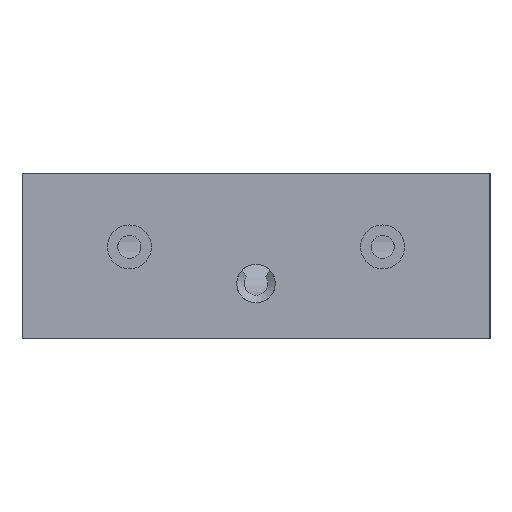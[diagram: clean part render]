
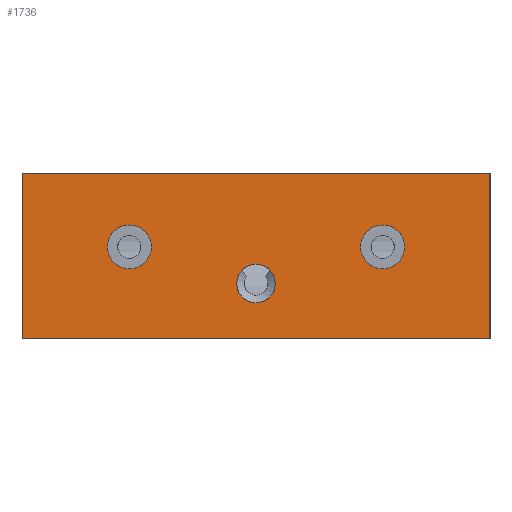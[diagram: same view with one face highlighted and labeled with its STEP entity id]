
A CAD part, left-side view. The second image highlights one B-rep face of the part: STEP entity #1736.
In plain terms, the highlighted planar face has unit normal (-1, 0, 0).
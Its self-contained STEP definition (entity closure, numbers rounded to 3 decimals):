
#25 = AXIS2_PLACEMENT_3D ( 'NONE', #1303, #2258, #1767 ) ;
#44 = CARTESIAN_POINT ( 'NONE',  ( -42.5, -42.5, 15. ) ) ;
#49 = ORIENTED_EDGE ( 'NONE', *, *, #1320, .F. ) ;
#65 = CARTESIAN_POINT ( 'NONE',  ( -42.5, 23., 5.65 ) ) ;
#90 = CIRCLE ( 'NONE', #1322, 4. ) ;
#93 = EDGE_CURVE ( 'NONE', #2844, #226, #416, .T. ) ;
#112 = DIRECTION ( 'NONE',  ( 0., 1., 0. ) ) ;
#174 = CIRCLE ( 'NONE', #938, 4. ) ;
#176 = EDGE_CURVE ( 'NONE', #1093, #1921, #642, .T. ) ;
#226 = VERTEX_POINT ( 'NONE', #2267 ) ;
#319 = ORIENTED_EDGE ( 'NONE', *, *, #176, .T. ) ;
#331 = CARTESIAN_POINT ( 'NONE',  ( -42.5, -23., -2.35 ) ) ;
#336 = AXIS2_PLACEMENT_3D ( 'NONE', #1702, #2147, #3126 ) ;
#344 = EDGE_LOOP ( 'NONE', ( #1698, #573 ) ) ;
#389 = CARTESIAN_POINT ( 'NONE',  ( -42.5, 42.5, -15. ) ) ;
#416 = CIRCLE ( 'NONE', #1119, 4. ) ;
#470 = CARTESIAN_POINT ( 'NONE',  ( -42.5, 23., 1.65 ) ) ;
#493 = ORIENTED_EDGE ( 'NONE', *, *, #93, .T. ) ;
#573 = ORIENTED_EDGE ( 'NONE', *, *, #1135, .F. ) ;
#582 = ORIENTED_EDGE ( 'NONE', *, *, #1990, .T. ) ;
#612 = PLANE ( 'NONE',  #2230 ) ;
#642 = LINE ( 'NONE', #389, #1966 ) ;
#680 = EDGE_LOOP ( 'NONE', ( #493, #3032 ) ) ;
#813 = AXIS2_PLACEMENT_3D ( 'NONE', #1262, #984, #1226 ) ;
#841 = CIRCLE ( 'NONE', #336, 4. ) ;
#928 = VERTEX_POINT ( 'NONE', #1683 ) ;
#938 = AXIS2_PLACEMENT_3D ( 'NONE', #470, #1673, #2133 ) ;
#984 = DIRECTION ( 'NONE',  ( -1., 0., 0. ) ) ;
#1047 = VERTEX_POINT ( 'NONE', #1959 ) ;
#1093 = VERTEX_POINT ( 'NONE', #1468 ) ;
#1098 = LINE ( 'NONE', #2526, #1275 ) ;
#1119 = AXIS2_PLACEMENT_3D ( 'NONE', #1712, #2715, #2234 ) ;
#1135 = EDGE_CURVE ( 'NONE', #2748, #928, #1557, .T. ) ;
#1137 = CARTESIAN_POINT ( 'NONE',  ( -42.5, -23., 1.65 ) ) ;
#1226 = DIRECTION ( 'NONE',  ( 0., 0., 1. ) ) ;
#1262 = CARTESIAN_POINT ( 'NONE',  ( -42.5, 0., -5. ) ) ;
#1275 = VECTOR ( 'NONE', #2541, 1000. ) ;
#1303 = CARTESIAN_POINT ( 'NONE',  ( -42.5, 0., -5. ) ) ;
#1320 = EDGE_CURVE ( 'NONE', #1047, #1921, #1991, .T. ) ;
#1322 = AXIS2_PLACEMENT_3D ( 'NONE', #1137, #1380, #112 ) ;
#1327 = FACE_BOUND ( 'NONE', #680, .T. ) ;
#1380 = DIRECTION ( 'NONE',  ( 1., 0., 0. ) ) ;
#1468 = CARTESIAN_POINT ( 'NONE',  ( -42.5, 42.5, -15. ) ) ;
#1557 = CIRCLE ( 'NONE', #25, 3.5 ) ;
#1575 = CARTESIAN_POINT ( 'NONE',  ( -42.5, 42.5, 15. ) ) ;
#1589 = EDGE_CURVE ( 'NONE', #928, #2748, #1622, .T. ) ;
#1622 = CIRCLE ( 'NONE', #813, 3.5 ) ;
#1644 = EDGE_CURVE ( 'NONE', #2449, #1047, #1098, .T. ) ;
#1673 = DIRECTION ( 'NONE',  ( 1., 0., 0. ) ) ;
#1683 = CARTESIAN_POINT ( 'NONE',  ( -42.5, 0., -1.5 ) ) ;
#1690 = VERTEX_POINT ( 'NONE', #2260 ) ;
#1698 = ORIENTED_EDGE ( 'NONE', *, *, #1589, .F. ) ;
#1702 = CARTESIAN_POINT ( 'NONE',  ( -42.5, 23., 1.65 ) ) ;
#1712 = CARTESIAN_POINT ( 'NONE',  ( -42.5, -23., 1.65 ) ) ;
#1736 = ADVANCED_FACE ( 'NONE', ( #1327, #3014, #1817, #2787 ), #612, .F. ) ;
#1764 = CARTESIAN_POINT ( 'NONE',  ( -42.5, 42.5, 15. ) ) ;
#1767 = DIRECTION ( 'NONE',  ( 0., 0., 1. ) ) ;
#1794 = ORIENTED_EDGE ( 'NONE', *, *, #2022, .T. ) ;
#1795 = DIRECTION ( 'NONE',  ( 0., -1., 0. ) ) ;
#1817 = FACE_BOUND ( 'NONE', #344, .T. ) ;
#1911 = EDGE_LOOP ( 'NONE', ( #319, #49, #1970, #2381 ) ) ;
#1921 = VERTEX_POINT ( 'NONE', #2405 ) ;
#1931 = VECTOR ( 'NONE', #1943, 1000. ) ;
#1943 = DIRECTION ( 'NONE',  ( 0., 0., -1. ) ) ;
#1959 = CARTESIAN_POINT ( 'NONE',  ( -42.5, -42.5, 15. ) ) ;
#1966 = VECTOR ( 'NONE', #1795, 1000. ) ;
#1970 = ORIENTED_EDGE ( 'NONE', *, *, #1644, .F. ) ;
#1990 = EDGE_CURVE ( 'NONE', #2812, #1690, #174, .T. ) ;
#1991 = LINE ( 'NONE', #44, #1931 ) ;
#2022 = EDGE_CURVE ( 'NONE', #1690, #2812, #841, .T. ) ;
#2101 = EDGE_LOOP ( 'NONE', ( #1794, #582 ) ) ;
#2133 = DIRECTION ( 'NONE',  ( 0., 1., 0. ) ) ;
#2147 = DIRECTION ( 'NONE',  ( 1., 0., 0. ) ) ;
#2148 = DIRECTION ( 'NONE',  ( 1., 0., 0. ) ) ;
#2230 = AXIS2_PLACEMENT_3D ( 'NONE', #1575, #2148, #2877 ) ;
#2234 = DIRECTION ( 'NONE',  ( 0., 1., 0. ) ) ;
#2258 = DIRECTION ( 'NONE',  ( -1., 0., 0. ) ) ;
#2260 = CARTESIAN_POINT ( 'NONE',  ( -42.5, 23., -2.35 ) ) ;
#2267 = CARTESIAN_POINT ( 'NONE',  ( -42.5, -23., 5.65 ) ) ;
#2381 = ORIENTED_EDGE ( 'NONE', *, *, #2699, .T. ) ;
#2405 = CARTESIAN_POINT ( 'NONE',  ( -42.5, -42.5, -15. ) ) ;
#2449 = VERTEX_POINT ( 'NONE', #2918 ) ;
#2526 = CARTESIAN_POINT ( 'NONE',  ( -42.5, 42.5, 15. ) ) ;
#2541 = DIRECTION ( 'NONE',  ( 0., -1., 0. ) ) ;
#2699 = EDGE_CURVE ( 'NONE', #2449, #1093, #2996, .T. ) ;
#2715 = DIRECTION ( 'NONE',  ( 1., 0., 0. ) ) ;
#2719 = CARTESIAN_POINT ( 'NONE',  ( -42.5, 0., -8.5 ) ) ;
#2748 = VERTEX_POINT ( 'NONE', #2719 ) ;
#2781 = DIRECTION ( 'NONE',  ( 0., 0., -1. ) ) ;
#2787 = FACE_OUTER_BOUND ( 'NONE', #1911, .T. ) ;
#2812 = VERTEX_POINT ( 'NONE', #65 ) ;
#2844 = VERTEX_POINT ( 'NONE', #331 ) ;
#2877 = DIRECTION ( 'NONE',  ( 0., 1., 0. ) ) ;
#2912 = EDGE_CURVE ( 'NONE', #226, #2844, #90, .T. ) ;
#2918 = CARTESIAN_POINT ( 'NONE',  ( -42.5, 42.5, 15. ) ) ;
#2986 = VECTOR ( 'NONE', #2781, 1000. ) ;
#2996 = LINE ( 'NONE', #1764, #2986 ) ;
#3014 = FACE_BOUND ( 'NONE', #2101, .T. ) ;
#3032 = ORIENTED_EDGE ( 'NONE', *, *, #2912, .T. ) ;
#3126 = DIRECTION ( 'NONE',  ( 0., 1., 0. ) ) ;
